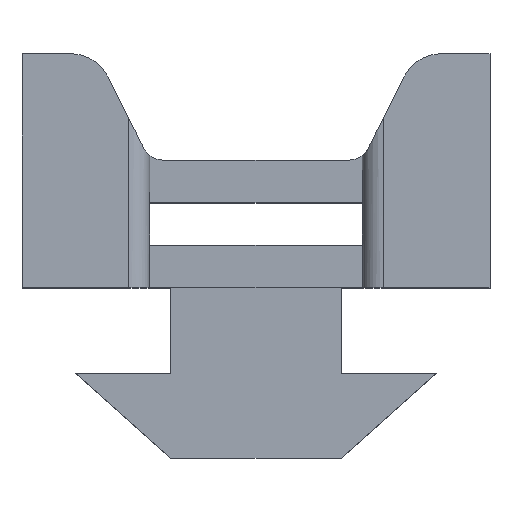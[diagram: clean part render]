
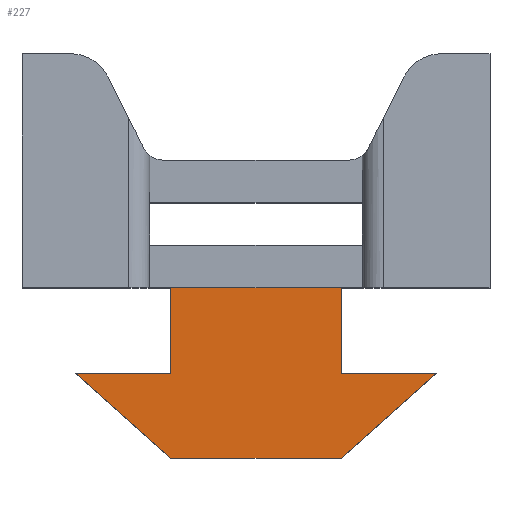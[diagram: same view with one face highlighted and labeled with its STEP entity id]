
A CAD part, top view. The second image highlights one B-rep face of the part: STEP entity #227.
In plain terms, the highlighted planar face has unit normal (0, 0, 1).
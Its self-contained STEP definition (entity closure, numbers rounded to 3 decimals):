
#10 = VERTEX_POINT ( 'NONE', #678 ) ;
#98 = ORIENTED_EDGE ( 'NONE', *, *, #2194, .T. ) ;
#102 = EDGE_CURVE ( 'NONE', #1495, #1561, #668, .T. ) ;
#119 = VECTOR ( 'NONE', #2228, 1000. ) ;
#155 = ORIENTED_EDGE ( 'NONE', *, *, #772, .F. ) ;
#227 = ADVANCED_FACE ( 'NONE', ( #1812 ), #525, .T. ) ;
#229 = LINE ( 'NONE', #1032, #1408 ) ;
#261 = CARTESIAN_POINT ( 'NONE',  ( -8.5, -4., 3. ) ) ;
#309 = LINE ( 'NONE', #1636, #1781 ) ;
#345 = CARTESIAN_POINT ( 'NONE',  ( -4., 0., 3. ) ) ;
#356 = CARTESIAN_POINT ( 'NONE',  ( 4., -8., 3. ) ) ;
#381 = EDGE_LOOP ( 'NONE', ( #1727, #1976, #98, #1518, #2300, #949, #1316, #155 ) ) ;
#390 = EDGE_CURVE ( 'NONE', #1138, #397, #1936, .T. ) ;
#397 = VERTEX_POINT ( 'NONE', #261 ) ;
#460 = CARTESIAN_POINT ( 'NONE',  ( -8.5, -4., 3. ) ) ;
#504 = VERTEX_POINT ( 'NONE', #345 ) ;
#525 = PLANE ( 'NONE',  #2001 ) ;
#539 = DIRECTION ( 'NONE',  ( 1., 0., 0. ) ) ;
#609 = LINE ( 'NONE', #460, #1525 ) ;
#656 = DIRECTION ( 'NONE',  ( 0.747, -0.664, 0. ) ) ;
#668 = LINE ( 'NONE', #356, #2066 ) ;
#678 = CARTESIAN_POINT ( 'NONE',  ( -4., -8., 3. ) ) ;
#716 = DIRECTION ( 'NONE',  ( 1., 0., 0. ) ) ;
#772 = EDGE_CURVE ( 'NONE', #504, #2310, #1125, .T. ) ;
#819 = DIRECTION ( 'NONE',  ( -1., 0., 0. ) ) ;
#832 = CARTESIAN_POINT ( 'NONE',  ( 4., -4., 3. ) ) ;
#949 = ORIENTED_EDGE ( 'NONE', *, *, #1557, .T. ) ;
#968 = EDGE_CURVE ( 'NONE', #10, #1495, #309, .T. ) ;
#1032 = CARTESIAN_POINT ( 'NONE',  ( -4., 0., 3. ) ) ;
#1092 = CARTESIAN_POINT ( 'NONE',  ( 8.5, -4., 3. ) ) ;
#1125 = LINE ( 'NONE', #1693, #119 ) ;
#1137 = VECTOR ( 'NONE', #1915, 1000. ) ;
#1138 = VERTEX_POINT ( 'NONE', #1619 ) ;
#1316 = ORIENTED_EDGE ( 'NONE', *, *, #2035, .F. ) ;
#1319 = VECTOR ( 'NONE', #1456, 1000. ) ;
#1368 = CARTESIAN_POINT ( 'NONE',  ( 4., -4., 3. ) ) ;
#1377 = DIRECTION ( 'NONE',  ( 0., -1., 0. ) ) ;
#1408 = VECTOR ( 'NONE', #1377, 1000. ) ;
#1456 = DIRECTION ( 'NONE',  ( -1., 0., 0. ) ) ;
#1495 = VERTEX_POINT ( 'NONE', #2335 ) ;
#1518 = ORIENTED_EDGE ( 'NONE', *, *, #968, .T. ) ;
#1525 = VECTOR ( 'NONE', #656, 1000. ) ;
#1557 = EDGE_CURVE ( 'NONE', #1561, #1618, #1795, .T. ) ;
#1561 = VERTEX_POINT ( 'NONE', #1092 ) ;
#1618 = VERTEX_POINT ( 'NONE', #1368 ) ;
#1619 = CARTESIAN_POINT ( 'NONE',  ( -4., -4., 3. ) ) ;
#1636 = CARTESIAN_POINT ( 'NONE',  ( 0., -8., 3. ) ) ;
#1693 = CARTESIAN_POINT ( 'NONE',  ( -11., 0., 3. ) ) ;
#1727 = ORIENTED_EDGE ( 'NONE', *, *, #1849, .T. ) ;
#1781 = VECTOR ( 'NONE', #539, 1000. ) ;
#1795 = LINE ( 'NONE', #2363, #1319 ) ;
#1808 = CARTESIAN_POINT ( 'NONE',  ( 0., 0., 3. ) ) ;
#1812 = FACE_OUTER_BOUND ( 'NONE', #381, .T. ) ;
#1849 = EDGE_CURVE ( 'NONE', #504, #1138, #229, .T. ) ;
#1885 = VECTOR ( 'NONE', #819, 1000. ) ;
#1915 = DIRECTION ( 'NONE',  ( 0., -1., 0. ) ) ;
#1936 = LINE ( 'NONE', #2269, #1885 ) ;
#1976 = ORIENTED_EDGE ( 'NONE', *, *, #390, .T. ) ;
#1980 = LINE ( 'NONE', #832, #1137 ) ;
#1991 = DIRECTION ( 'NONE',  ( 0., 0., 1. ) ) ;
#2001 = AXIS2_PLACEMENT_3D ( 'NONE', #1808, #1991, #716 ) ;
#2035 = EDGE_CURVE ( 'NONE', #2310, #1618, #1980, .T. ) ;
#2049 = CARTESIAN_POINT ( 'NONE',  ( 4., 0., 3. ) ) ;
#2066 = VECTOR ( 'NONE', #2367, 1000. ) ;
#2194 = EDGE_CURVE ( 'NONE', #397, #10, #609, .T. ) ;
#2228 = DIRECTION ( 'NONE',  ( 1., 0., 0. ) ) ;
#2269 = CARTESIAN_POINT ( 'NONE',  ( 0., -4., 3. ) ) ;
#2300 = ORIENTED_EDGE ( 'NONE', *, *, #102, .T. ) ;
#2310 = VERTEX_POINT ( 'NONE', #2049 ) ;
#2335 = CARTESIAN_POINT ( 'NONE',  ( 4., -8., 3. ) ) ;
#2363 = CARTESIAN_POINT ( 'NONE',  ( 0., -4., 3. ) ) ;
#2367 = DIRECTION ( 'NONE',  ( 0.747, 0.664, 0. ) ) ;
